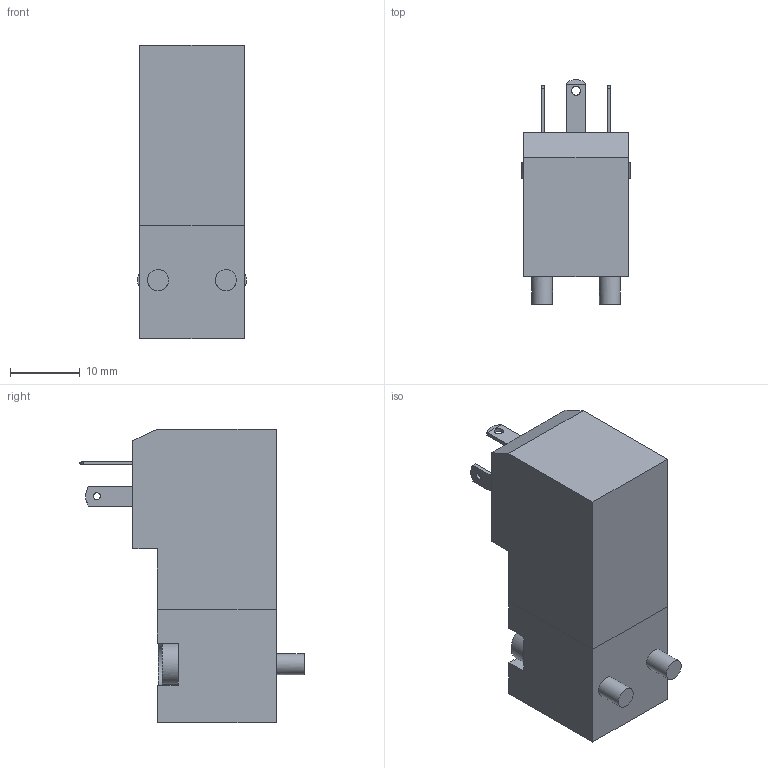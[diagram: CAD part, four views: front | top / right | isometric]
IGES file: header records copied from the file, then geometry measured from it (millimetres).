
Global section: file name: N3#9_#-2; native system: Autodesk Inventor 2014; preprocessor: unknown; author: A. Manieri; organization: Pneumax S.p.A.; date: 20160919.133950; units: millimetre
Bounding box: 15.5 x 32.1 x 42 mm (x, y, z)
Volume: 11546.4 mm3; surface area: 3808.8 mm2
Topology: 1 solids, 1 shells, 89 faces, 233 edges, 154 vertices
Faces by surface type: bspline 89
